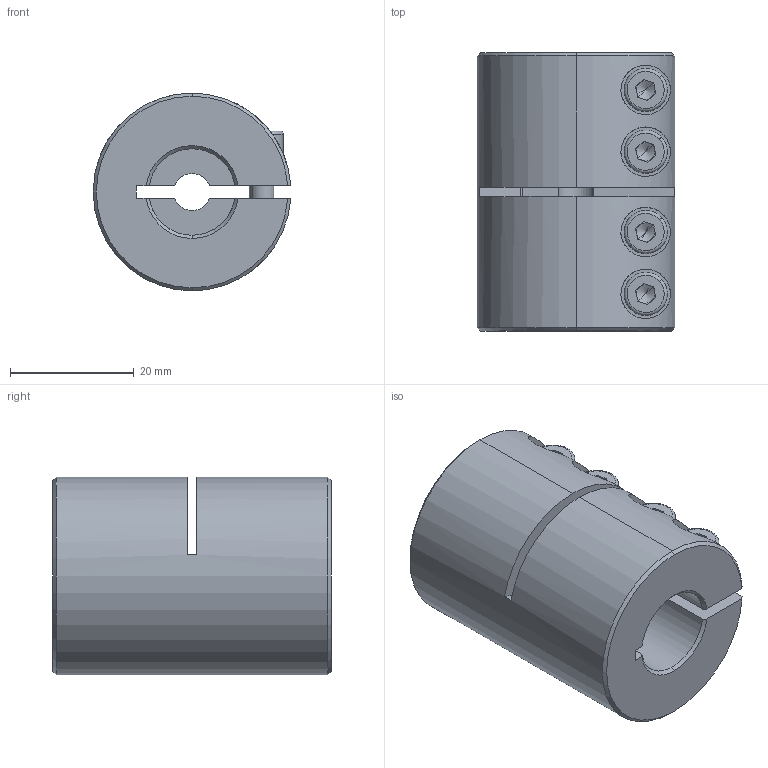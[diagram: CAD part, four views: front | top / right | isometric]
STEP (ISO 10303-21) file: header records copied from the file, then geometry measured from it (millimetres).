
FILE_DESCRIPTION (( 'STEP AP214' ), '1' );
FILE_NAME ('LL-B-D32L45-6-14½¨Ä£.STEP', '2022-07-21T06:45:04', ( '' ), ( '' ), 'SwSTEP 2.0', 'SolidWorks 2022', '' );
FILE_SCHEMA (( 'AUTOMOTIVE_DESIGN' ));
Length unit declared in the file: millimetre
Products named in the file (1): LL-B-D32L45-6-14膘耀
Bounding box: 31.97 x 45 x 32 mm (x, y, z)
Volume: 29742.9 mm3; surface area: 10859.3 mm2
Topology: 1 solids, 1 shells, 193 faces, 492 edges, 309 vertices
Faces by surface type: plane 88, cylinder 77, cone 20, torus 8
Entity records: 6357 total; most frequent: CARTESIAN_POINT 1583, DIRECTION 1037, ORIENTED_EDGE 968, EDGE_CURVE 484, AXIS2_PLACEMENT_3D 403, VERTEX_POINT 309, LINE 231, VECTOR 231
